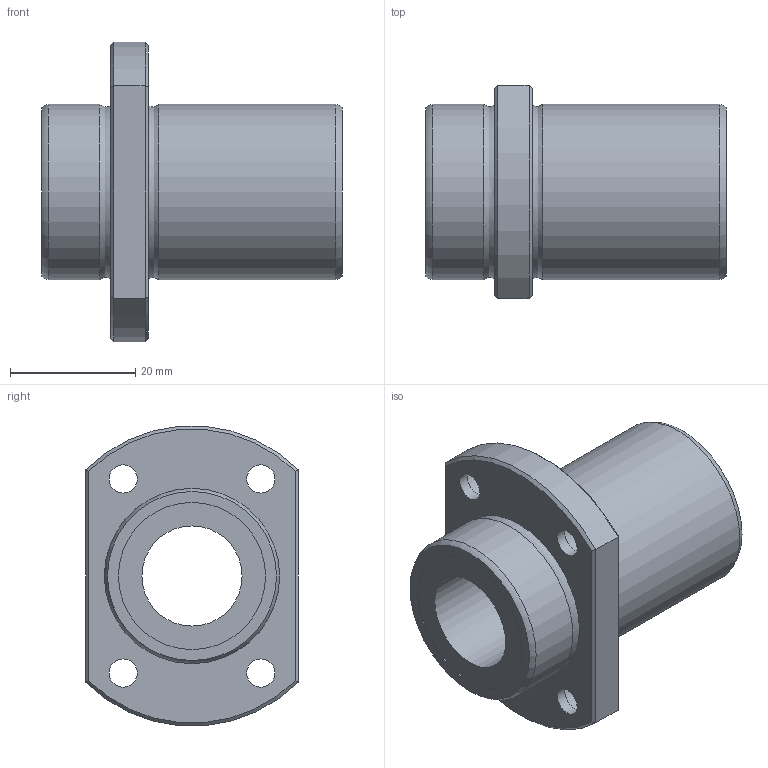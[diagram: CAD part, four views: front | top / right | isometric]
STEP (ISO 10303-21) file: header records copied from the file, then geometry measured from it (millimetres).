
FILE_DESCRIPTION((''),'2;1');
FILE_NAME('C:\Documents and Settings\土屋\My Documents\土屋移動用フォルダ\製品 (図面)\カタログ用3D\変換ファイル\OZAK_3D-CAD(STEP形式)\Part1.-Linear Bearings_ﾘﾆｱﾍﾞｱﾘﾝｸﾞ\09_Maintenance Free_ﾒｲﾝﾃﾅﾝｽﾌﾘｰ\L2017-09-21T13:47:08','2017-09-21T13:47:08',('y'),(''),'Autodesk Inventor 11','Autodesk Inventor 11','');
FILE_SCHEMA(('AUTOMOTIVE_DESIGN { 1 0 10303 214 1 1 1 1 }'));
Length unit declared in the file: millimetre
Products named in the file (1): LFTB-MF
Bounding box: 48 x 34 x 47.82 mm (x, y, z)
Volume: 23924.1 mm3; surface area: 9839.3 mm2
Topology: 1 solids, 1 shells, 39 faces, 75 edges, 46 vertices
Faces by surface type: bspline 14, plane 12, cylinder 7, cone 4, torus 2
Full cylindrical faces by diameter (mm): 16 x1, 23.5 x2, 28 x2
Entity records: 1177 total; most frequent: CARTESIAN_POINT 440, DIRECTION 140, ORIENTED_EDGE 116, EDGE_LOOP 74, AXIS2_PLACEMENT_3D 64, EDGE_CURVE 58, VERTEX_POINT 46, FACE_OUTER_BOUND 39
